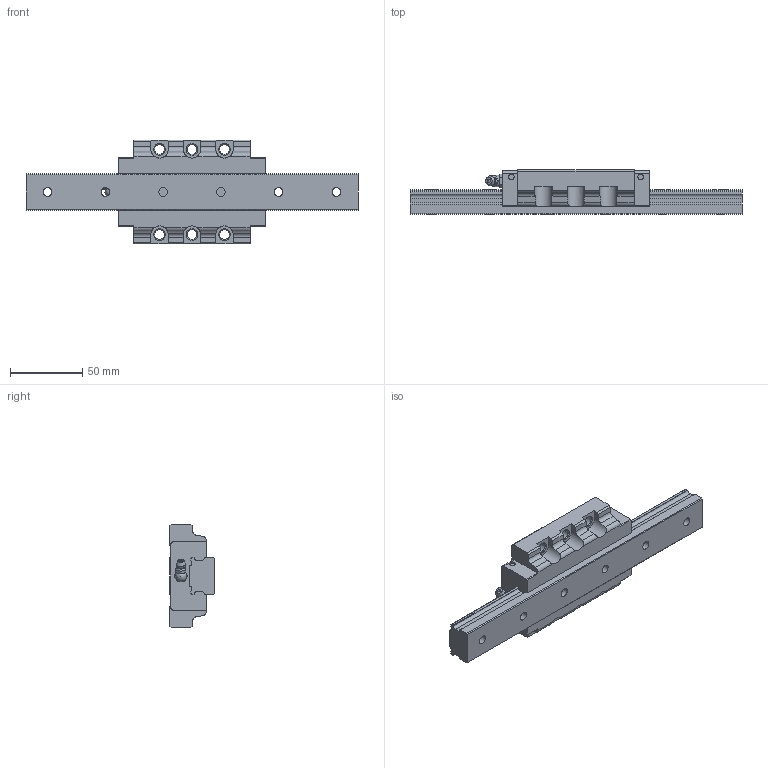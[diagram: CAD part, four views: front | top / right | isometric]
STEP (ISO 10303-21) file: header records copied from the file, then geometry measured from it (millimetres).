
FILE_DESCRIPTION(/* description */ ('STEP AP203'),/* implementation_level */ '2;1');
FILE_NAME(/* name */ 'SVR25LC1SS-230L_G15_0_B-M6F_64_0_0_0_1',/* time_stamp */ '2024-05-17T07:23:23+02:00',/* author */ ('License CC BY-ND 4.0'),/* organization */ ('CADENAS'),/* preprocessor_version */ 'ST-DEVELOPER v19.3',/* originating_system */ 'PARTsolutions',/* authorisation */ ' ');
FILE_SCHEMA (('CONFIG_CONTROL_DESIGN'));
Length unit declared in the file: millimetre
Products named in the file (4): SVR25LC1SS-230L_G15_0_B-M6F_64_0_0_0_1; SVR 25LC23015 R Track; SVR 25LC1SSB-M6F1 Slide; B-M6F_grease_nipple_joint1_SVR
Assembly tree (3 placements, depth 2):
  SVR25LC1SS-230L_G15_0_B-M6F_64_0_0_0_1
    SVR 25LC23015 R Track
    SVR 25LC1SSB-M6F1 Slide
    B-M6F_grease_nipple_joint1_SVR
Bounding box: 230 x 31 x 72 mm (x, y, z)
Volume: 211620.6 mm3; surface area: 49373 mm2
Topology: 3 solids, 3 shells, 244 faces, 656 edges, 429 vertices
Faces by surface type: plane 134, cylinder 80, cone 25, sphere 3, torus 2
Full cylindrical faces by diameter (mm): 3.9 x4, 4.917 x2, 6 x7, 6.8 x6, 8 x1, 9.5 x6
Entity records: 7563 total; most frequent: CARTESIAN_POINT 1473, DIRECTION 1238, ORIENTED_EDGE 1192, EDGE_CURVE 596, AXIS2_PLACEMENT_3D 442, VERTEX_POINT 421, LINE 354, VECTOR 354
